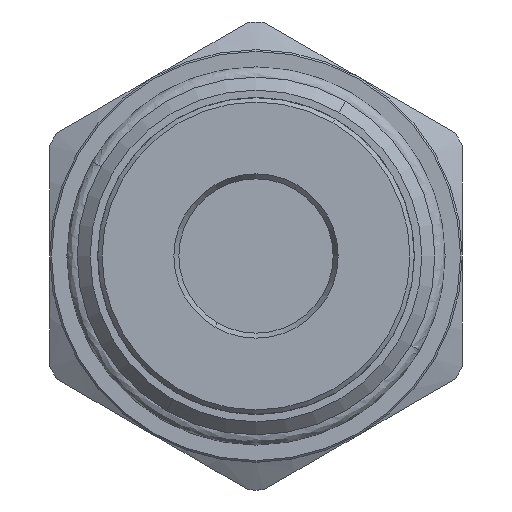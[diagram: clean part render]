
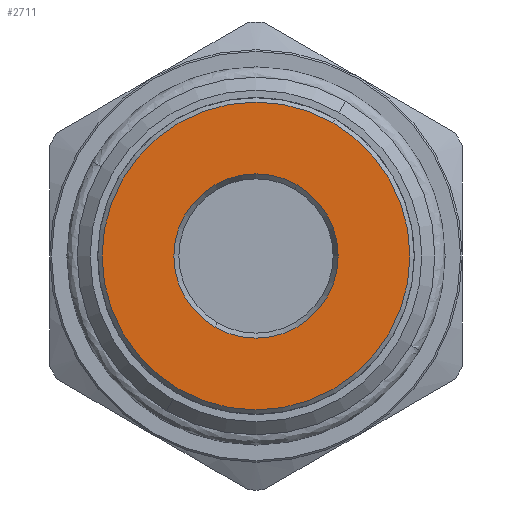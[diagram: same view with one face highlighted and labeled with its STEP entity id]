
A CAD part, left-side view. The second image highlights one B-rep face of the part: STEP entity #2711.
In plain terms, the highlighted planar face has unit normal (-1, 0, 0).
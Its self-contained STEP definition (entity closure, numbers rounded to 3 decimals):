
#36 = AXIS2_PLACEMENT_3D ( 'NONE', #436, #437, #440 ) ;
#43 = AXIS2_PLACEMENT_3D ( 'NONE', #2195, #2227, #2207 ) ;
#138 = AXIS2_PLACEMENT_3D ( 'NONE', #2445, #2514, #2529 ) ;
#178 = AXIS2_PLACEMENT_3D ( 'NONE', #1124, #1165, #1210 ) ;
#195 = AXIS2_PLACEMENT_3D ( 'NONE', #1365, #1405, #1412 ) ;
#254 = EDGE_CURVE ( 'NONE', #504, #481, #3002, .T. ) ;
#436 = CARTESIAN_POINT ( 'NONE',  ( -54., 0., 0. ) ) ;
#437 = DIRECTION ( 'NONE',  ( -1., 0., 0. ) ) ;
#440 = DIRECTION ( 'NONE',  ( 0., 0.5, -0.866 ) ) ;
#481 = VERTEX_POINT ( 'NONE', #3525 ) ;
#504 = VERTEX_POINT ( 'NONE', #3541 ) ;
#518 = VERTEX_POINT ( 'NONE', #3571 ) ;
#519 = VERTEX_POINT ( 'NONE', #3552 ) ;
#1124 = CARTESIAN_POINT ( 'NONE',  ( -54., 0., 0. ) ) ;
#1165 = DIRECTION ( 'NONE',  ( -1., 0., 0. ) ) ;
#1210 = DIRECTION ( 'NONE',  ( 0., 0.5, -0.866 ) ) ;
#1364 = PLANE ( 'NONE',  #195 ) ;
#1365 = CARTESIAN_POINT ( 'NONE',  ( -54., 0., 0. ) ) ;
#1405 = DIRECTION ( 'NONE',  ( -1., 0., 0. ) ) ;
#1412 = DIRECTION ( 'NONE',  ( 0., 0.5, -0.866 ) ) ;
#1780 = EDGE_LOOP ( 'NONE', ( #2025, #1989 ) ) ;
#1786 = EDGE_LOOP ( 'NONE', ( #2031, #2006 ) ) ;
#1989 = ORIENTED_EDGE ( 'NONE', *, *, #2402, .T. ) ;
#2006 = ORIENTED_EDGE ( 'NONE', *, *, #254, .T. ) ;
#2025 = ORIENTED_EDGE ( 'NONE', *, *, #2175, .T. ) ;
#2031 = ORIENTED_EDGE ( 'NONE', *, *, #2584, .T. ) ;
#2175 = EDGE_CURVE ( 'NONE', #518, #519, #3027, .T. ) ;
#2195 = CARTESIAN_POINT ( 'NONE',  ( -54., 0., 0. ) ) ;
#2207 = DIRECTION ( 'NONE',  ( 0., -0.5, 0.866 ) ) ;
#2227 = DIRECTION ( 'NONE',  ( 1., 0., 0. ) ) ;
#2402 = EDGE_CURVE ( 'NONE', #519, #518, #3082, .T. ) ;
#2445 = CARTESIAN_POINT ( 'NONE',  ( -54., 0., 0. ) ) ;
#2514 = DIRECTION ( 'NONE',  ( 1., 0., 0. ) ) ;
#2529 = DIRECTION ( 'NONE',  ( 0., -0.5, 0.866 ) ) ;
#2584 = EDGE_CURVE ( 'NONE', #481, #504, #3138, .T. ) ;
#2711 = ADVANCED_FACE ( 'NONE', ( #3302, #3288 ), #1364, .T. ) ;
#3002 = CIRCLE ( 'NONE', #36, 17.76 ) ;
#3027 = CIRCLE ( 'NONE', #43, 9.477 ) ;
#3082 = CIRCLE ( 'NONE', #138, 9.477 ) ;
#3138 = CIRCLE ( 'NONE', #178, 17.76 ) ;
#3288 = FACE_BOUND ( 'NONE', #1780, .T. ) ;
#3302 = FACE_OUTER_BOUND ( 'NONE', #1786, .T. ) ;
#3525 = CARTESIAN_POINT ( 'NONE',  ( -54., -8.88, 15.381 ) ) ;
#3541 = CARTESIAN_POINT ( 'NONE',  ( -54., 8.88, -15.381 ) ) ;
#3552 = CARTESIAN_POINT ( 'NONE',  ( -54., -4.739, 8.208 ) ) ;
#3571 = CARTESIAN_POINT ( 'NONE',  ( -54., 4.739, -8.208 ) ) ;
